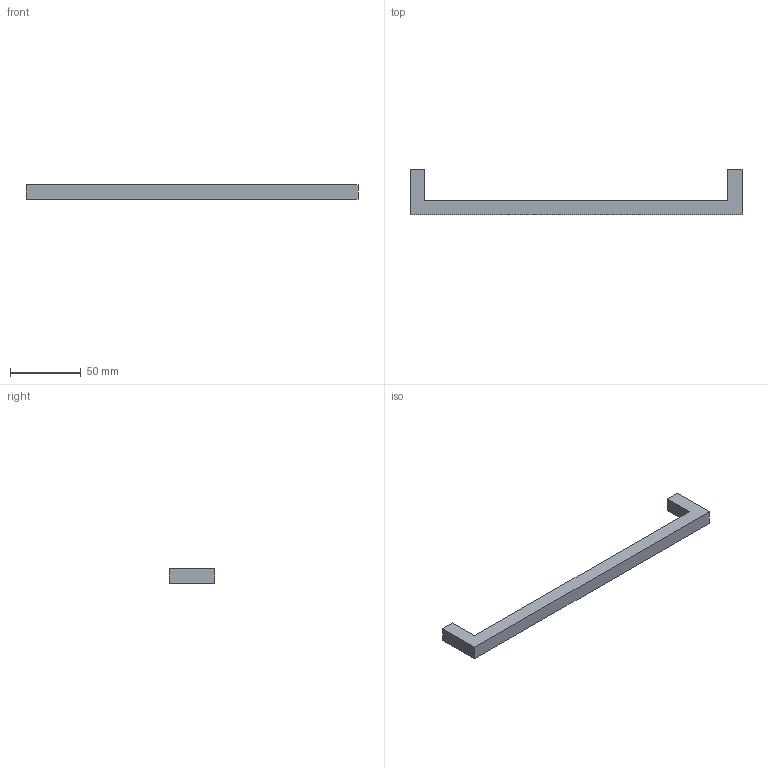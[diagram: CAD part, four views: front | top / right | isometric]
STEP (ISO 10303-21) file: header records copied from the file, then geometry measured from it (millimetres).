
FILE_DESCRIPTION( ( '' ), '1' );
FILE_NAME( 'C:/Documents and Settings/Sachin/Desktop/Sheet 10_1/stp/1160020.stp', '2013-10-22T06:47:19', ( '' ), ( '' ), ' ', ' ', ' ' );
FILE_SCHEMA( ( 'CONFIG_CONTROL_DESIGN' ) );
Length unit declared in the file: millimetre
Products named in the file (1): 1
Bounding box: 234 x 32 x 10 mm (x, y, z)
Volume: 27548.7 mm3; surface area: 11571.3 mm2
Topology: 1 solids, 1 shells, 16 faces, 36 edges, 24 vertices
Faces by surface type: plane 12, cylinder 4
Entity records: 492 total; most frequent: DIRECTION 78, CARTESIAN_POINT 77, ORIENTED_EDGE 72, EDGE_CURVE 36, LINE 28, VECTOR 28, AXIS2_PLACEMENT_3D 25, VERTEX_POINT 24
